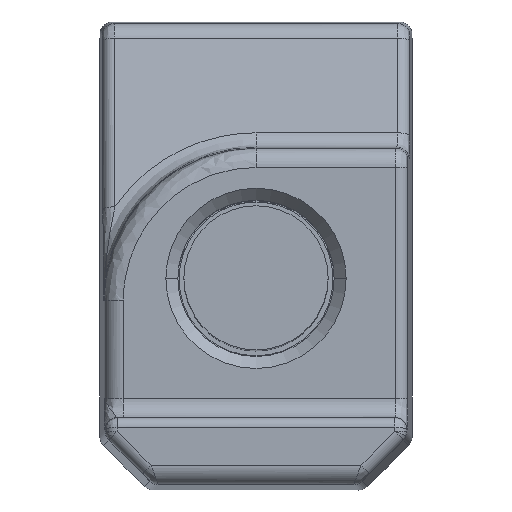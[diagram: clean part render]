
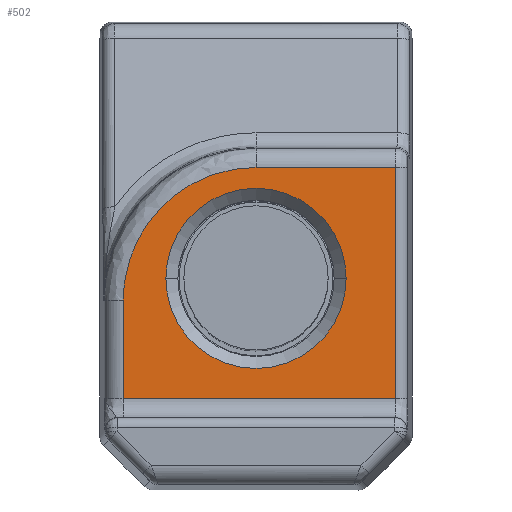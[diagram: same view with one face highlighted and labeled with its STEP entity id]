
A CAD part, top view. The second image highlights one B-rep face of the part: STEP entity #502.
In plain terms, the highlighted planar face has unit normal (0, 0, 1).
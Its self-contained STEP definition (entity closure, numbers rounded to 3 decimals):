
#19 = DIRECTION ( 'NONE',  ( 1., 0., 0. ) ) ;
#23 = CARTESIAN_POINT ( 'NONE',  ( 5.811, 3.8, -2. ) ) ;
#68 = EDGE_CURVE ( 'NONE', #976, #2502, #3188, .T. ) ;
#80 = CARTESIAN_POINT ( 'NONE',  ( -5.394, 9.057, -2. ) ) ;
#98 = CARTESIAN_POINT ( 'NONE',  ( -5.058, 10.103, -2. ) ) ;
#129 = DIRECTION ( 'NONE',  ( 1., 0., 0. ) ) ;
#156 = FACE_OUTER_BOUND ( 'NONE', #3210, .T. ) ;
#200 = CARTESIAN_POINT ( 'NONE',  ( -6.5, 14.4, -2. ) ) ;
#206 = ORIENTED_EDGE ( 'NONE', *, *, #2291, .F. ) ;
#271 = CARTESIAN_POINT ( 'NONE',  ( 5.811, 13.458, -2. ) ) ;
#398 = CARTESIAN_POINT ( 'NONE',  ( -4.511, 11.077, -2. ) ) ;
#417 = CARTESIAN_POINT ( 'NONE',  ( -0.982, 13.329, -2. ) ) ;
#453 = CARTESIAN_POINT ( 'NONE',  ( -0.713, 13.372, -2. ) ) ;
#466 = VERTEX_POINT ( 'NONE', #2695 ) ;
#502 = ADVANCED_FACE ( 'NONE', ( #3755, #156 ), #1531, .T. ) ;
#717 = CARTESIAN_POINT ( 'NONE',  ( -1.18, 13.292, -2. ) ) ;
#737 = CARTESIAN_POINT ( 'NONE',  ( -0.962, 13.332, -2. ) ) ;
#743 = CARTESIAN_POINT ( 'NONE',  ( 0., 8.8, -2. ) ) ;
#756 = CARTESIAN_POINT ( 'NONE',  ( -5.195, 9.764, -2. ) ) ;
#766 = LINE ( 'NONE', #2809, #2437 ) ;
#779 = CARTESIAN_POINT ( 'NONE',  ( -2.457, 12.845, -2. ) ) ;
#787 = CARTESIAN_POINT ( 'NONE',  ( -6.5, 3.8, -2. ) ) ;
#796 = CARTESIAN_POINT ( 'NONE',  ( 3.75, 8.8, -2. ) ) ;
#801 = CARTESIAN_POINT ( 'NONE',  ( -0.169, 13.417, -2. ) ) ;
#885 = DIRECTION ( 'NONE',  ( 0., -1., 0. ) ) ;
#911 = AXIS2_PLACEMENT_3D ( 'NONE', #200, #2819, #1511 ) ;
#929 = VERTEX_POINT ( 'NONE', #3550 ) ;
#971 = ORIENTED_EDGE ( 'NONE', *, *, #68, .T. ) ;
#976 = VERTEX_POINT ( 'NONE', #1412 ) ;
#1034 = CARTESIAN_POINT ( 'NONE',  ( -1.947, 13.062, -2. ) ) ;
#1070 = CARTESIAN_POINT ( 'NONE',  ( -0.921, 13.339, -2. ) ) ;
#1085 = VECTOR ( 'NONE', #885, 1000. ) ;
#1090 = CARTESIAN_POINT ( 'NONE',  ( -0.858, 13.35, -2. ) ) ;
#1091 = DIRECTION ( 'NONE',  ( -1., 0., 0. ) ) ;
#1113 = CARTESIAN_POINT ( 'NONE',  ( -6.5, 13.417, -2. ) ) ;
#1293 = CARTESIAN_POINT ( 'NONE',  ( -5.517, 7.9, -2. ) ) ;
#1362 = CARTESIAN_POINT ( 'NONE',  ( -2.861, 12.617, -2. ) ) ;
#1364 = DIRECTION ( 'NONE',  ( 0., 0., -1. ) ) ;
#1379 = CARTESIAN_POINT ( 'NONE',  ( -5.517, 8.238, -2. ) ) ;
#1397 = CARTESIAN_POINT ( 'NONE',  ( -5.094, 10.017, -2. ) ) ;
#1412 = CARTESIAN_POINT ( 'NONE',  ( 0., 13.417, -2. ) ) ;
#1436 = CARTESIAN_POINT ( 'NONE',  ( 0., 13.417, -2. ) ) ;
#1511 = DIRECTION ( 'NONE',  ( 0., -1., 0. ) ) ;
#1531 = PLANE ( 'NONE',  #911 ) ;
#1583 = ORIENTED_EDGE ( 'NONE', *, *, #2568, .T. ) ;
#1690 = CARTESIAN_POINT ( 'NONE',  ( -4.566, 10.997, -2. ) ) ;
#1725 = CARTESIAN_POINT ( 'NONE',  ( -4.035, 11.666, -2. ) ) ;
#1749 = CARTESIAN_POINT ( 'NONE',  ( -5.408, 8.992, -2. ) ) ;
#1838 = LINE ( 'NONE', #271, #1085 ) ;
#1916 = EDGE_CURVE ( 'NONE', #2029, #2847, #3775, .T. ) ;
#1927 = CARTESIAN_POINT ( 'NONE',  ( -3.75, 8.8, -2. ) ) ;
#2025 = CARTESIAN_POINT ( 'NONE',  ( -4.226, 11.455, -2. ) ) ;
#2029 = VERTEX_POINT ( 'NONE', #1927 ) ;
#2053 = DIRECTION ( 'NONE',  ( 0., 1., 0. ) ) ;
#2065 = CARTESIAN_POINT ( 'NONE',  ( -5.36, 9.21, -2. ) ) ;
#2073 = LINE ( 'NONE', #787, #4192 ) ;
#2086 = CARTESIAN_POINT ( 'NONE',  ( -5.113, 9.972, -2. ) ) ;
#2169 = VECTOR ( 'NONE', #1091, 1000. ) ;
#2291 = EDGE_CURVE ( 'NONE', #929, #3765, #1838, .T. ) ;
#2344 = CARTESIAN_POINT ( 'NONE',  ( -2.939, 12.569, -2. ) ) ;
#2360 = EDGE_CURVE ( 'NONE', #466, #2502, #766, .T. ) ;
#2362 = CARTESIAN_POINT ( 'NONE',  ( -5.517, 7.9, -2. ) ) ;
#2385 = CARTESIAN_POINT ( 'NONE',  ( -3.337, 12.309, -2. ) ) ;
#2407 = CARTESIAN_POINT ( 'NONE',  ( -1.737, 13.137, -2. ) ) ;
#2437 = VECTOR ( 'NONE', #2053, 1000. ) ;
#2455 = ORIENTED_EDGE ( 'NONE', *, *, #2360, .F. ) ;
#2490 = CIRCLE ( 'NONE', #3364, 3.75 ) ;
#2502 = VERTEX_POINT ( 'NONE', #1293 ) ;
#2568 = EDGE_CURVE ( 'NONE', #929, #976, #3700, .T. ) ;
#2680 = CARTESIAN_POINT ( 'NONE',  ( -5.421, 8.925, -2. ) ) ;
#2695 = CARTESIAN_POINT ( 'NONE',  ( -5.517, 3.8, -2. ) ) ;
#2723 = CARTESIAN_POINT ( 'NONE',  ( -1.44, 13.231, -2. ) ) ;
#2809 = CARTESIAN_POINT ( 'NONE',  ( -5.517, -25.42, -2. ) ) ;
#2819 = DIRECTION ( 'NONE',  ( 0., 0., 1. ) ) ;
#2847 = VERTEX_POINT ( 'NONE', #796 ) ;
#2942 = CARTESIAN_POINT ( 'NONE',  ( 0., 8.8, -2. ) ) ;
#2946 = DIRECTION ( 'NONE',  ( 0., 0., -1. ) ) ;
#2977 = CARTESIAN_POINT ( 'NONE',  ( -4.719, 10.763, -2. ) ) ;
#2981 = ORIENTED_EDGE ( 'NONE', *, *, #3853, .T. ) ;
#2996 = CARTESIAN_POINT ( 'NONE',  ( -1.987, 13.046, -2. ) ) ;
#3019 = ORIENTED_EDGE ( 'NONE', *, *, #1916, .T. ) ;
#3056 = CARTESIAN_POINT ( 'NONE',  ( -0.421, 13.405, -2. ) ) ;
#3123 = EDGE_LOOP ( 'NONE', ( #2981, #3019 ) ) ;
#3188 = B_SPLINE_CURVE_WITH_KNOTS ( 'NONE', 3,
 ( #1436, #801, #3056, #453, #1090, #1070, #737, #417, #717, #2723, #2407, #3294, #1034, #2996, #4025, #779, #3617, #1362, #2344, #2385, #3313, #1725, #2025, #3352, #398, #1690, #2977, #3699, #3637, #98, #1397, #2086, #756, #3373, #2065, #80, #1749, #3656, #2680, #3982, #1379, #2362 ),
 .UNSPECIFIED., .F., .F.,
 ( 4, 1, 1, 1, 2, 2, 1, 1, 2, 2, 1, 2, 2, 2, 1, 2, 2, 1, 1, 2, 2, 1, 1, 1, 2, 2, 4 ),
 ( 0., 0.062, 0.094, 0.109, 0.117, 0.125, 0.187, 0.219, 0.234, 0.25, 0.313, 0.344, 0.375, 0.5, 0.563, 0.594, 0.625, 0.688, 0.719, 0.734, 0.75, 0.813, 0.844, 0.859, 0.867, 0.875, 1. ),
 .UNSPECIFIED. ) ;
#3210 = EDGE_LOOP ( 'NONE', ( #2455, #3596, #206, #1583, #971 ) ) ;
#3294 = CARTESIAN_POINT ( 'NONE',  ( -1.863, 13.093, -2. ) ) ;
#3300 = DIRECTION ( 'NONE',  ( 1., 0., 0. ) ) ;
#3313 = CARTESIAN_POINT ( 'NONE',  ( -3.632, 12.07, -2. ) ) ;
#3352 = CARTESIAN_POINT ( 'NONE',  ( -4.399, 11.23, -2. ) ) ;
#3364 = AXIS2_PLACEMENT_3D ( 'NONE', #743, #2946, #3300 ) ;
#3373 = CARTESIAN_POINT ( 'NONE',  ( -5.281, 9.511, -2. ) ) ;
#3550 = CARTESIAN_POINT ( 'NONE',  ( 5.811, 13.417, -2. ) ) ;
#3596 = ORIENTED_EDGE ( 'NONE', *, *, #3643, .T. ) ;
#3617 = CARTESIAN_POINT ( 'NONE',  ( -2.701, 12.711, -2. ) ) ;
#3637 = CARTESIAN_POINT ( 'NONE',  ( -5.002, 10.23, -2. ) ) ;
#3643 = EDGE_CURVE ( 'NONE', #466, #3765, #2073, .T. ) ;
#3656 = CARTESIAN_POINT ( 'NONE',  ( -5.416, 8.948, -2. ) ) ;
#3699 = CARTESIAN_POINT ( 'NONE',  ( -4.86, 10.522, -2. ) ) ;
#3700 = LINE ( 'NONE', #1113, #2169 ) ;
#3705 = AXIS2_PLACEMENT_3D ( 'NONE', #2942, #1364, #19 ) ;
#3755 = FACE_BOUND ( 'NONE', #3123, .T. ) ;
#3765 = VERTEX_POINT ( 'NONE', #23 ) ;
#3775 = CIRCLE ( 'NONE', #3705, 3.75 ) ;
#3853 = EDGE_CURVE ( 'NONE', #2847, #2029, #2490, .T. ) ;
#3982 = CARTESIAN_POINT ( 'NONE',  ( -5.486, 8.572, -2. ) ) ;
#4025 = CARTESIAN_POINT ( 'NONE',  ( -2.204, 12.961, -2. ) ) ;
#4192 = VECTOR ( 'NONE', #129, 1000. ) ;
